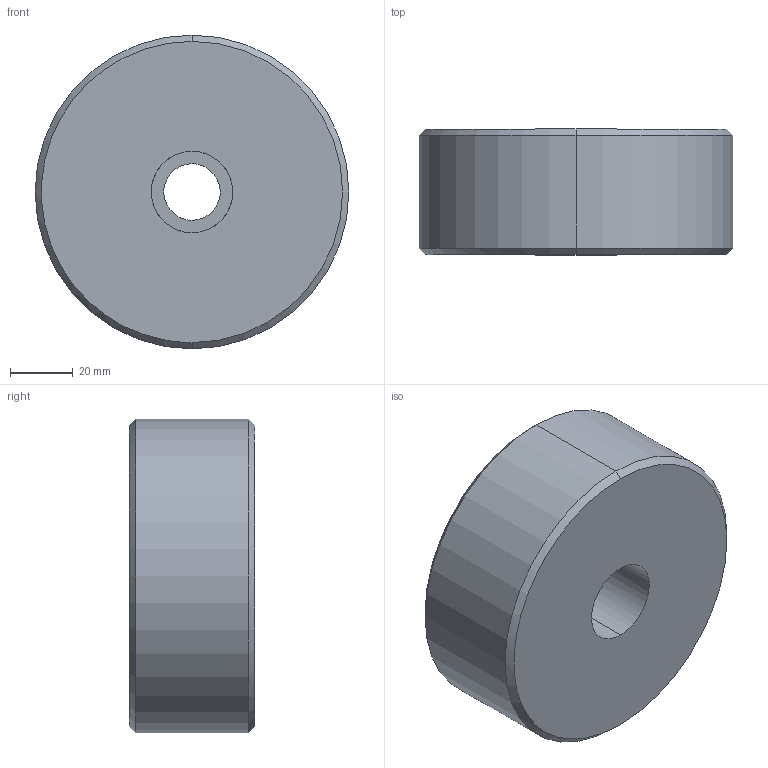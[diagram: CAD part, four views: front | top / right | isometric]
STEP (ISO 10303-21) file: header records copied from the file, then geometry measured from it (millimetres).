
FILE_DESCRIPTION(('CATIA V5 STEP Exchange'),'2;1');
FILE_NAME('C:\Users\Utente\Desktop\IO LAVORO\3D X SITO CF\X 3D SITO CF 27-09-2020\758\758+100+40+20.stp','2020-10-28T19:30:39+00:00',('none'),('none'),'CATIA Version 5 Release 20 GA (IN-10)','CATIA V5 STEP AP203','none');
FILE_SCHEMA(('CONFIG_CONTROL_DESIGN'));
Length unit declared in the file: millimetre
Products named in the file (1): 758+100+40+20
Bounding box: 100 x 40 x 100 mm (x, y, z)
Volume: 297211.4 mm3; surface area: 29783.5 mm2
Topology: 1 solids, 1 shells, 13 faces, 26 edges, 16 vertices
Faces by surface type: cylinder 6, cone 4, plane 3
Entity records: 521 total; most frequent: CARTESIAN_POINT 217, ORIENTED_EDGE 52, DIRECTION 45, EDGE_CURVE 26, AXIS2_PLACEMENT_3D 23, EDGE_LOOP 16, VERTEX_POINT 16, ADVANCED_FACE 13
